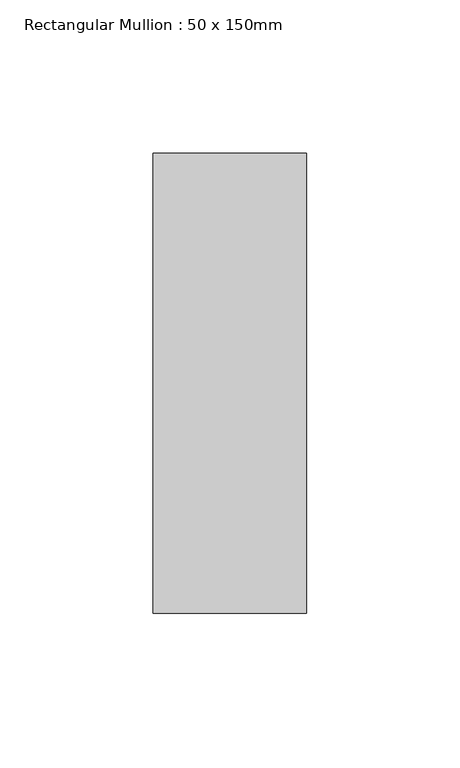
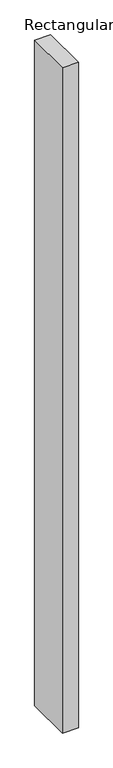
"""IFC4 building model written with IfcOpenShell, lengths in millimetres: member geometry, Rectangular Mullion : 50 x 150mm."""

from ifc_helpers import new_model, si_unit, frame, origin, place, context, project, spatial, polyline, outline, extrude, source, transform, mapped, element, save


def rectangular_mullion_50_x_150mm_792551fd(model_context):
    return source(origin(), model_context, "Body", "SweptSolid", [
        extrude(outline(polyline([(0.0, 75.0), (0.0, -75.0), (-50.0, -75.0), (-50.0, 75.0), (0.0, 75.0)])), frame((0.0, 0.0, -2200.0), z_axis=(0.0, 0.0, 1.0), x_axis=(1.0, 0.0, 0.0)), (0.0, 0.0, 1.0), 2200.0),
    ])


if __name__ == "__main__":
    model = new_model("IFC4")
    model_context = context("Model", 3, world=origin())
    ifc_project = project(units=[si_unit("LENGTHUNIT", "METRE", prefix="MILLI")], contexts=[model_context])
    site = spatial("IfcSite", under=ifc_project)
    building = spatial("IfcBuilding", under=site)
    placement = place(None, origin())
    rectangular_mullion_50_x_150mm_shape = rectangular_mullion_50_x_150mm_792551fd(model_context)
    element("IfcMember", 1, ObjectType="Rectangular Mullion : 50 x 150mm", at=placement, inside=building, context=model_context, shape_type="MappedRepresentation", body=[
        mapped(rectangular_mullion_50_x_150mm_shape, transform((0.0, 0.0, 0.0), x_axis=(1.0, 0.0, 0.0), y_axis=(0.0, 1.0, 0.0), z_axis=(0.0, 0.0, 1.0))),
    ])
    save(model, "model.ifc")
